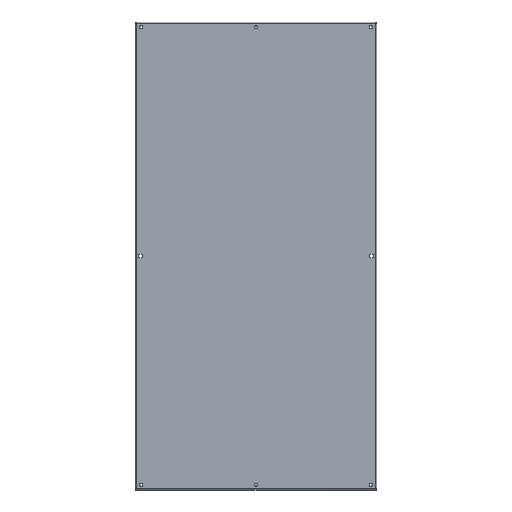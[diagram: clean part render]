
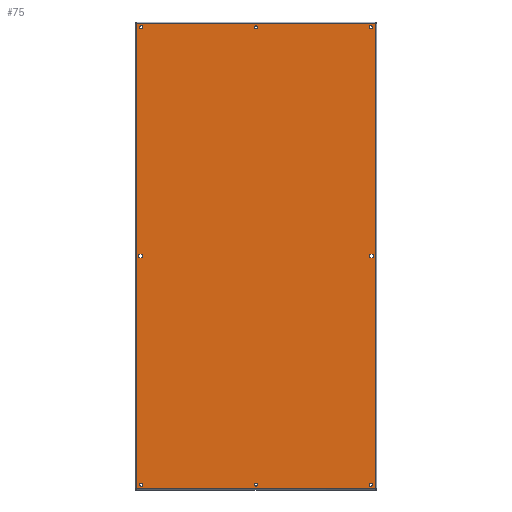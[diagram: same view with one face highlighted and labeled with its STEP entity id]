
A CAD part, front view. The second image highlights one B-rep face of the part: STEP entity #75.
In plain terms, the highlighted planar face has unit normal (0, -1, 0).
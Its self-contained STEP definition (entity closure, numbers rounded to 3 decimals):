
#75 = ADVANCED_FACE( '', ( #152, #153, #154, #155, #156, #157, #158, #159, #160 ), #161, .T. );
#152 = FACE_BOUND( '', #326, .T. );
#153 = FACE_BOUND( '', #327, .T. );
#154 = FACE_BOUND( '', #328, .T. );
#155 = FACE_BOUND( '', #329, .T. );
#156 = FACE_BOUND( '', #330, .T. );
#157 = FACE_BOUND( '', #331, .T. );
#158 = FACE_BOUND( '', #332, .T. );
#159 = FACE_OUTER_BOUND( '', #333, .T. );
#160 = FACE_BOUND( '', #334, .T. );
#161 = PLANE( '', #335 );
#326 = EDGE_LOOP( '', ( #1292, #1293, #1294, #1295 ) );
#327 = EDGE_LOOP( '', ( #1296 ) );
#328 = EDGE_LOOP( '', ( #1297 ) );
#329 = EDGE_LOOP( '', ( #1298 ) );
#330 = EDGE_LOOP( '', ( #1299 ) );
#331 = EDGE_LOOP( '', ( #1300 ) );
#332 = EDGE_LOOP( '', ( #1301 ) );
#333 = EDGE_LOOP( '', ( #1302, #1303, #1304, #1305 ) );
#334 = EDGE_LOOP( '', ( #1306, #1307, #1308, #1309 ) );
#335 = AXIS2_PLACEMENT_3D( '', #1310, #1311, #1312 );
#1292 = ORIENTED_EDGE( '', *, *, #1880, .T. );
#1293 = ORIENTED_EDGE( '', *, *, #1881, .T. );
#1294 = ORIENTED_EDGE( '', *, *, #1882, .T. );
#1295 = ORIENTED_EDGE( '', *, *, #1883, .T. );
#1296 = ORIENTED_EDGE( '', *, *, #1884, .F. );
#1297 = ORIENTED_EDGE( '', *, *, #1885, .F. );
#1298 = ORIENTED_EDGE( '', *, *, #1886, .F. );
#1299 = ORIENTED_EDGE( '', *, *, #1887, .F. );
#1300 = ORIENTED_EDGE( '', *, *, #1888, .F. );
#1301 = ORIENTED_EDGE( '', *, *, #1889, .F. );
#1302 = ORIENTED_EDGE( '', *, *, #1890, .F. );
#1303 = ORIENTED_EDGE( '', *, *, #1891, .T. );
#1304 = ORIENTED_EDGE( '', *, *, #1892, .F. );
#1305 = ORIENTED_EDGE( '', *, *, #1893, .T. );
#1306 = ORIENTED_EDGE( '', *, *, #1894, .T. );
#1307 = ORIENTED_EDGE( '', *, *, #1895, .T. );
#1308 = ORIENTED_EDGE( '', *, *, #1896, .T. );
#1309 = ORIENTED_EDGE( '', *, *, #1897, .T. );
#1310 = CARTESIAN_POINT( '', ( -508., 0., -984.25 ) );
#1311 = DIRECTION( '', ( 0., -1., 0. ) );
#1312 = DIRECTION( '', ( 0., 0., -1. ) );
#1880 = EDGE_CURVE( '', #2072, #2073, #2074, .T. );
#1881 = EDGE_CURVE( '', #2073, #2075, #2076, .T. );
#1882 = EDGE_CURVE( '', #2075, #2077, #2078, .T. );
#1883 = EDGE_CURVE( '', #2077, #2072, #2079, .T. );
#1884 = EDGE_CURVE( '', #2080, #2080, #2081, .T. );
#1885 = EDGE_CURVE( '', #2082, #2082, #2083, .T. );
#1886 = EDGE_CURVE( '', #2084, #2084, #2085, .T. );
#1887 = EDGE_CURVE( '', #2086, #2086, #2087, .T. );
#1888 = EDGE_CURVE( '', #2088, #2088, #2089, .T. );
#1889 = EDGE_CURVE( '', #2090, #2090, #2091, .T. );
#1890 = EDGE_CURVE( '', #2092, #2093, #2094, .T. );
#1891 = EDGE_CURVE( '', #2092, #2095, #2096, .T. );
#1892 = EDGE_CURVE( '', #2097, #2095, #2098, .T. );
#1893 = EDGE_CURVE( '', #2097, #2093, #2099, .T. );
#1894 = EDGE_CURVE( '', #2100, #2101, #2102, .T. );
#1895 = EDGE_CURVE( '', #2101, #2103, #2104, .T. );
#1896 = EDGE_CURVE( '', #2103, #2105, #2106, .T. );
#1897 = EDGE_CURVE( '', #2105, #2100, #2107, .T. );
#2072 = VERTEX_POINT( '', #2388 );
#2073 = VERTEX_POINT( '', #2389 );
#2074 = LINE( '', #2390, #2391 );
#2075 = VERTEX_POINT( '', #2392 );
#2076 = CIRCLE( '', #2393, 6.35 );
#2077 = VERTEX_POINT( '', #2394 );
#2078 = LINE( '', #2395, #2396 );
#2079 = CIRCLE( '', #2397, 6.35 );
#2080 = VERTEX_POINT( '', #2398 );
#2081 = CIRCLE( '', #2399, 6.35 );
#2082 = VERTEX_POINT( '', #2400 );
#2083 = CIRCLE( '', #2401, 6.35 );
#2084 = VERTEX_POINT( '', #2402 );
#2085 = CIRCLE( '', #2403, 6.35 );
#2086 = VERTEX_POINT( '', #2404 );
#2087 = CIRCLE( '', #2405, 6.35 );
#2088 = VERTEX_POINT( '', #2406 );
#2089 = CIRCLE( '', #2407, 6.35 );
#2090 = VERTEX_POINT( '', #2408 );
#2091 = CIRCLE( '', #2409, 6.35 );
#2092 = VERTEX_POINT( '', #2410 );
#2093 = VERTEX_POINT( '', #2411 );
#2094 = LINE( '', #2412, #2413 );
#2095 = VERTEX_POINT( '', #2414 );
#2096 = LINE( '', #2415, #2416 );
#2097 = VERTEX_POINT( '', #2417 );
#2098 = LINE( '', #2418, #2419 );
#2099 = LINE( '', #2420, #2421 );
#2100 = VERTEX_POINT( '', #2422 );
#2101 = VERTEX_POINT( '', #2423 );
#2102 = LINE( '', #2424, #2425 );
#2103 = VERTEX_POINT( '', #2426 );
#2104 = CIRCLE( '', #2427, 6.35 );
#2105 = VERTEX_POINT( '', #2428 );
#2106 = LINE( '', #2429, #2430 );
#2107 = CIRCLE( '', #2431, 6.35 );
#2388 = CARTESIAN_POINT( '', ( 488.975, 0., -6.35 ) );
#2389 = CARTESIAN_POINT( '', ( 482.625, 0., -6.35 ) );
#2390 = CARTESIAN_POINT( '', ( 488.975, 0., -6.35 ) );
#2391 = VECTOR( '', #3124, 1000. );
#2392 = CARTESIAN_POINT( '', ( 482.625, 0., 6.35 ) );
#2393 = AXIS2_PLACEMENT_3D( '', #3125, #3126, #3127 );
#2394 = CARTESIAN_POINT( '', ( 488.975, 0., 6.35 ) );
#2395 = CARTESIAN_POINT( '', ( 482.625, 0., 6.35 ) );
#2396 = VECTOR( '', #3128, 1000. );
#2397 = AXIS2_PLACEMENT_3D( '', #3129, #3130, #3131 );
#2398 = CARTESIAN_POINT( '', ( 6.35, 0., -962.025 ) );
#2399 = AXIS2_PLACEMENT_3D( '', #3132, #3133, #3134 );
#2400 = CARTESIAN_POINT( '', ( 6.35, 0., 962.025 ) );
#2401 = AXIS2_PLACEMENT_3D( '', #3135, #3136, #3137 );
#2402 = CARTESIAN_POINT( '', ( -476.25, 0., 962.025 ) );
#2403 = AXIS2_PLACEMENT_3D( '', #3138, #3139, #3140 );
#2404 = CARTESIAN_POINT( '', ( -476.25, 0., -962.025 ) );
#2405 = AXIS2_PLACEMENT_3D( '', #3141, #3142, #3143 );
#2406 = CARTESIAN_POINT( '', ( 488.95, 0., -962.025 ) );
#2407 = AXIS2_PLACEMENT_3D( '', #3144, #3145, #3146 );
#2408 = CARTESIAN_POINT( '', ( 488.95, 0., 962.025 ) );
#2409 = AXIS2_PLACEMENT_3D( '', #3147, #3148, #3149 );
#2410 = CARTESIAN_POINT( '', ( -503.301, 0., -979.551 ) );
#2411 = CARTESIAN_POINT( '', ( -503.301, 0., 979.551 ) );
#2412 = CARTESIAN_POINT( '', ( -503.301, 0., 979.549 ) );
#2413 = VECTOR( '', #3150, 1000. );
#2414 = CARTESIAN_POINT( '', ( 503.301, 0., -979.551 ) );
#2415 = CARTESIAN_POINT( '', ( 503.301, 0., -979.551 ) );
#2416 = VECTOR( '', #3151, 1000. );
#2417 = CARTESIAN_POINT( '', ( 503.301, 0., 979.551 ) );
#2418 = CARTESIAN_POINT( '', ( 503.301, 0., -979.549 ) );
#2419 = VECTOR( '', #3152, 1000. );
#2420 = CARTESIAN_POINT( '', ( 508., 0., 979.551 ) );
#2421 = VECTOR( '', #3153, 1000. );
#2422 = CARTESIAN_POINT( '', ( -482.625, 0., -6.35 ) );
#2423 = CARTESIAN_POINT( '', ( -488.975, 0., -6.35 ) );
#2424 = CARTESIAN_POINT( '', ( -482.625, 0., -6.35 ) );
#2425 = VECTOR( '', #3154, 1000. );
#2426 = CARTESIAN_POINT( '', ( -488.975, 0., 6.35 ) );
#2427 = AXIS2_PLACEMENT_3D( '', #3155, #3156, #3157 );
#2428 = CARTESIAN_POINT( '', ( -482.625, 0., 6.35 ) );
#2429 = CARTESIAN_POINT( '', ( -488.975, 0., 6.35 ) );
#2430 = VECTOR( '', #3158, 1000. );
#2431 = AXIS2_PLACEMENT_3D( '', #3159, #3160, #3161 );
#3124 = DIRECTION( '', ( -1., 0., 0. ) );
#3125 = CARTESIAN_POINT( '', ( 482.625, 0., 0. ) );
#3126 = DIRECTION( '', ( 0., 1., 0. ) );
#3127 = DIRECTION( '', ( 1., 0., 0. ) );
#3128 = DIRECTION( '', ( 1., 0., 0. ) );
#3129 = CARTESIAN_POINT( '', ( 488.975, 0., 0. ) );
#3130 = DIRECTION( '', ( 0., 1., 0. ) );
#3131 = DIRECTION( '', ( -1., 0., 0. ) );
#3132 = CARTESIAN_POINT( '', ( 0., 0., -962.025 ) );
#3133 = DIRECTION( '', ( 0., -1., 0. ) );
#3134 = DIRECTION( '', ( 1., 0., 0. ) );
#3135 = CARTESIAN_POINT( '', ( 0., 0., 962.025 ) );
#3136 = DIRECTION( '', ( 0., -1., 0. ) );
#3137 = DIRECTION( '', ( 1., 0., 0. ) );
#3138 = CARTESIAN_POINT( '', ( -482.6, 0., 962.025 ) );
#3139 = DIRECTION( '', ( 0., -1., 0. ) );
#3140 = DIRECTION( '', ( 1., 0., 0. ) );
#3141 = CARTESIAN_POINT( '', ( -482.6, 0., -962.025 ) );
#3142 = DIRECTION( '', ( 0., -1., 0. ) );
#3143 = DIRECTION( '', ( 1., 0., 0. ) );
#3144 = CARTESIAN_POINT( '', ( 482.6, 0., -962.025 ) );
#3145 = DIRECTION( '', ( 0., -1., 0. ) );
#3146 = DIRECTION( '', ( 1., 0., 0. ) );
#3147 = CARTESIAN_POINT( '', ( 482.6, 0., 962.025 ) );
#3148 = DIRECTION( '', ( 0., -1., 0. ) );
#3149 = DIRECTION( '', ( 1., 0., 0. ) );
#3150 = DIRECTION( '', ( 0., 0., 1. ) );
#3151 = DIRECTION( '', ( 1., 0., 0. ) );
#3152 = DIRECTION( '', ( 0., 0., -1. ) );
#3153 = DIRECTION( '', ( -1., 0., 0. ) );
#3154 = DIRECTION( '', ( -1., 0., 0. ) );
#3155 = CARTESIAN_POINT( '', ( -488.975, 0., 0. ) );
#3156 = DIRECTION( '', ( 0., 1., 0. ) );
#3157 = DIRECTION( '', ( 1., 0., 0. ) );
#3158 = DIRECTION( '', ( 1., 0., 0. ) );
#3159 = CARTESIAN_POINT( '', ( -482.625, 0., 0. ) );
#3160 = DIRECTION( '', ( 0., 1., 0. ) );
#3161 = DIRECTION( '', ( -1., 0., 0. ) );
